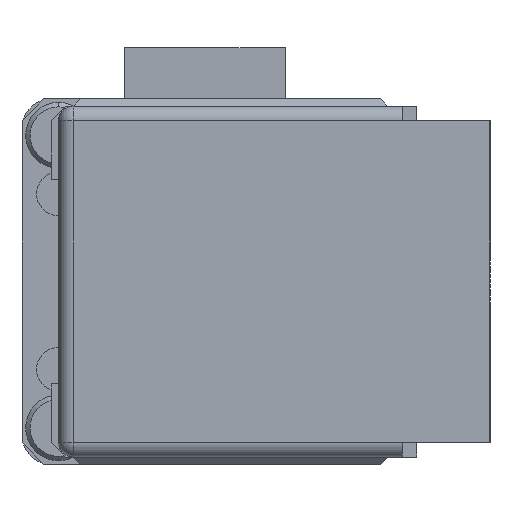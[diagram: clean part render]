
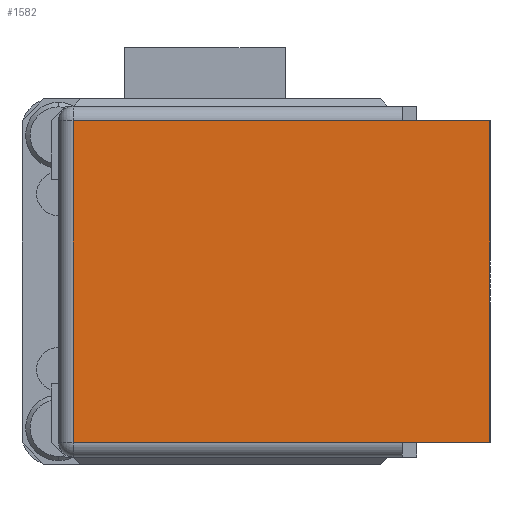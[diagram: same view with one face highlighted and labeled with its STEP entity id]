
A CAD part, left-side view. The second image highlights one B-rep face of the part: STEP entity #1582.
In plain terms, the highlighted planar face has unit normal (-1, 0, 0).
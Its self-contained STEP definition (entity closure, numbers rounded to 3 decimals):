
#95 = EDGE_CURVE ( 'NONE', #4003, #4919, #4132, .T. ) ;
#142 = CARTESIAN_POINT ( 'NONE',  ( 0., 0., -11. ) ) ;
#400 = DIRECTION ( 'NONE',  ( 0., 0., -1. ) ) ;
#997 = DIRECTION ( 'NONE',  ( 0., 1., 0. ) ) ;
#1200 = CARTESIAN_POINT ( 'NONE',  ( 0., 6., 11. ) ) ;
#1241 = EDGE_CURVE ( 'NONE', #5307, #6263, #2902, .T. ) ;
#1285 = DIRECTION ( 'NONE',  ( 0., 0., -1. ) ) ;
#1383 = EDGE_CURVE ( 'NONE', #4919, #5956, #4738, .T. ) ;
#1399 = VECTOR ( 'NONE', #997, 1000. ) ;
#1569 = CARTESIAN_POINT ( 'NONE',  ( 0., 0., 11. ) ) ;
#1582 = ADVANCED_FACE ( 'NONE', ( #4989 ), #6677, .F. ) ;
#1777 = EDGE_LOOP ( 'NONE', ( #3759, #5442, #3145, #1839, #6834, #3583 ) ) ;
#1824 = LINE ( 'NONE', #1200, #4371 ) ;
#1839 = ORIENTED_EDGE ( 'NONE', *, *, #4789, .T. ) ;
#1849 = VECTOR ( 'NONE', #6086, 1000. ) ;
#2144 = CARTESIAN_POINT ( 'NONE',  ( 0., 6., 11. ) ) ;
#2194 = EDGE_CURVE ( 'NONE', #6263, #4003, #3979, .T. ) ;
#2460 = CARTESIAN_POINT ( 'NONE',  ( 0., 28.5, 11. ) ) ;
#2850 = VECTOR ( 'NONE', #5517, 1000. ) ;
#2902 = LINE ( 'NONE', #3351, #1399 ) ;
#3145 = ORIENTED_EDGE ( 'NONE', *, *, #1383, .T. ) ;
#3351 = CARTESIAN_POINT ( 'NONE',  ( 0., 6., 11. ) ) ;
#3583 = ORIENTED_EDGE ( 'NONE', *, *, #1241, .T. ) ;
#3759 = ORIENTED_EDGE ( 'NONE', *, *, #2194, .T. ) ;
#3979 = LINE ( 'NONE', #2460, #6658 ) ;
#4003 = VERTEX_POINT ( 'NONE', #6217 ) ;
#4132 = LINE ( 'NONE', #5363, #6962 ) ;
#4311 = AXIS2_PLACEMENT_3D ( 'NONE', #6559, #6652, #400 ) ;
#4371 = VECTOR ( 'NONE', #5034, 1000. ) ;
#4476 = CARTESIAN_POINT ( 'NONE',  ( 0., 6., -11. ) ) ;
#4738 = LINE ( 'NONE', #7089, #1849 ) ;
#4789 = EDGE_CURVE ( 'NONE', #5956, #6678, #5708, .T. ) ;
#4919 = VERTEX_POINT ( 'NONE', #4476 ) ;
#4989 = FACE_OUTER_BOUND ( 'NONE', #1777, .T. ) ;
#5018 = CARTESIAN_POINT ( 'NONE',  ( 0., 28.5, 11. ) ) ;
#5034 = DIRECTION ( 'NONE',  ( 0., -1., 0. ) ) ;
#5307 = VERTEX_POINT ( 'NONE', #2144 ) ;
#5349 = DIRECTION ( 'NONE',  ( 0., -1., 0. ) ) ;
#5363 = CARTESIAN_POINT ( 'NONE',  ( 0., 6., -11. ) ) ;
#5442 = ORIENTED_EDGE ( 'NONE', *, *, #95, .T. ) ;
#5498 = CARTESIAN_POINT ( 'NONE',  ( 0., 0., 11. ) ) ;
#5517 = DIRECTION ( 'NONE',  ( 0., 0., 1. ) ) ;
#5708 = LINE ( 'NONE', #5498, #2850 ) ;
#5956 = VERTEX_POINT ( 'NONE', #142 ) ;
#6086 = DIRECTION ( 'NONE',  ( 0., -1., 0. ) ) ;
#6217 = CARTESIAN_POINT ( 'NONE',  ( 0., 28.5, -11. ) ) ;
#6263 = VERTEX_POINT ( 'NONE', #5018 ) ;
#6559 = CARTESIAN_POINT ( 'NONE',  ( 0., 6., 11. ) ) ;
#6652 = DIRECTION ( 'NONE',  ( 1., 0., 0. ) ) ;
#6658 = VECTOR ( 'NONE', #1285, 1000. ) ;
#6677 = PLANE ( 'NONE',  #4311 ) ;
#6678 = VERTEX_POINT ( 'NONE', #1569 ) ;
#6834 = ORIENTED_EDGE ( 'NONE', *, *, #6864, .F. ) ;
#6864 = EDGE_CURVE ( 'NONE', #5307, #6678, #1824, .T. ) ;
#6962 = VECTOR ( 'NONE', #5349, 1000. ) ;
#7089 = CARTESIAN_POINT ( 'NONE',  ( 0., 6., -11. ) ) ;
